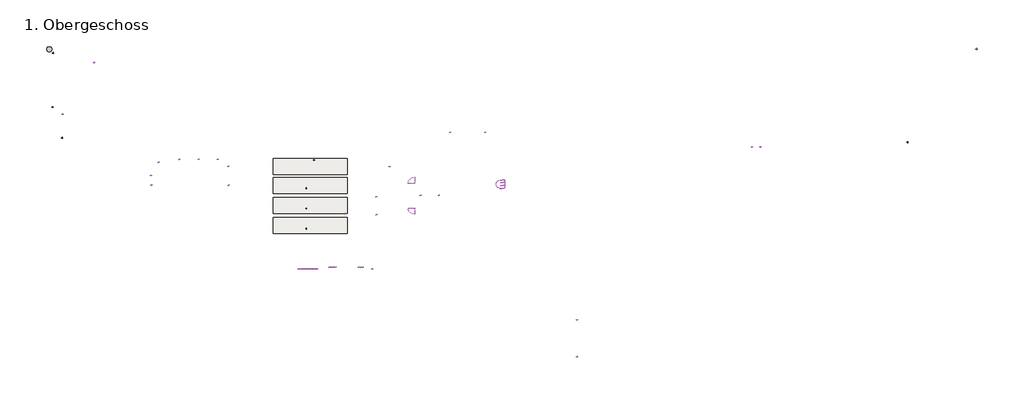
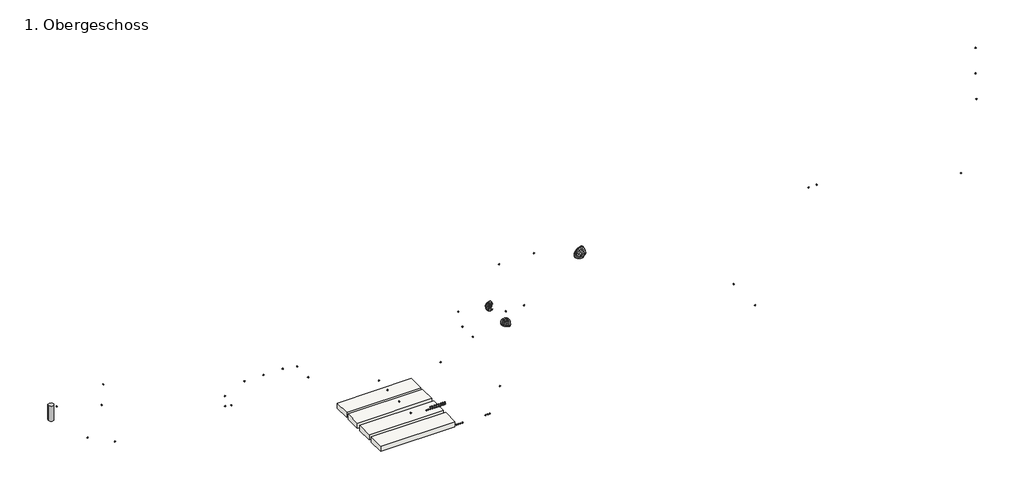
# One storey, incomplete: 63 proxies, 4 slabs.
"""IFC4 building model written with IfcOpenShell, lengths in millimetres."""

from ifc_helpers import new_model, si_unit, origin, place, context, project, spatial, triangles, transform, mapped, element, save
from components import generic_models_468b5ed0, generic_models_df03ad17, generic_models_46b4a44e, generic_models_0e3afcba, geschossdecke_112_geschossdecke_112_57db8b89, geschossdecke_135_geschossdecke_135_40bcd5ce, geschossdecke_158_geschossdecke_158_5216adb9, geschossdecke_geschossdecke_8e1ff118

model = new_model("IFC4")

# Units and contexts
model_context = context("Model", 3, world=origin())
ifc_project = project(units=[si_unit("LENGTHUNIT", "METRE", prefix="MILLI")], contexts=[model_context])

# Site, building, storey
site = spatial("IfcSite", under=ifc_project)
building = spatial("IfcBuilding", under=site)
storey = spatial("IfcBuildingStorey", under=building, Name="1. Obergeschoss", Elevation=2750.0)

# Proxies
placement = place(None, origin())
element("IfcBuildingElementProxy", 1, Name="Gebäudeautomation", ObjectType="Gebäudeautomation", at=placement, inside=storey, context=model_context, shape_type="Tessellation", body=[
    triangles([(7690.516626, 7316.5720093, 5342.8982941), (7715.5168442, 7316.5720093, 5317.8980759), (7690.516626, 7341.5722275, 5317.8980759), (7690.516626, 7291.5723724, 5317.8980759), (7665.5164078, 7316.5720093, 5317.8980759), (7690.516626, 7316.5720093, 5292.898439)], [[6, 5, 3], [6, 4, 5], [6, 2, 4], [6, 3, 2], [1, 3, 5], [1, 5, 4], [1, 4, 2], [1, 2, 3]]),
])
element("IfcBuildingElementProxy", 2, Name="Gebäudeautomation", ObjectType="Gebäudeautomation", at=placement, inside=storey, context=model_context, shape_type="Tessellation", body=[
    triangles([(7690.773587, 8005.6997131, 5341.9280045), (7715.7738052, 8005.6997131, 5316.9283676), (7690.773587, 8030.6999313, 5316.9283676), (7690.773587, 7980.7000763, 5316.9283676), (7665.7733688, 8005.6997131, 5316.9283676), (7690.773587, 8005.6997131, 5291.9281494)], [[6, 5, 3], [6, 4, 5], [6, 2, 4], [6, 3, 2], [1, 3, 5], [1, 5, 4], [1, 4, 2], [1, 2, 3]]),
])
element("IfcBuildingElementProxy", 3, Name="Gebäudeautomation", ObjectType="Gebäudeautomation", at=placement, inside=storey, context=model_context, shape_type="Tessellation", body=[
    triangles([(4857.0968422, 7671.4672073, 4998.7204651), (4882.0967697, 7671.4672073, 4973.7208282), (4857.0968422, 7696.4674255, 4973.7208282), (4857.0968422, 7646.4669891, 4973.7208282), (4832.0969147, 7671.4672073, 4973.7208282), (4857.0968422, 7671.4672073, 4948.72061)], [[6, 5, 3], [6, 4, 5], [6, 2, 4], [6, 3, 2], [1, 3, 5], [1, 5, 4], [1, 4, 2], [1, 2, 3]]),
])
element("IfcBuildingElementProxy", 4, Name="Gebäudeautomation", ObjectType="Gebäudeautomation", at=placement, inside=storey, context=model_context, shape_type="Tessellation", body=[
    triangles([(4877.9446976, 7320.2595749, 5238.6907013), (4902.9443344, 7320.2595749, 5213.6910645), (4877.9446976, 7345.2597931, 5213.6910645), (4877.9446976, 7295.2593567, 5213.6910645), (4852.9444794, 7320.2595749, 5213.6910645), (4877.9446976, 7320.2595749, 5188.6908463)], [[6, 5, 3], [6, 4, 5], [6, 2, 4], [6, 3, 2], [1, 3, 5], [1, 5, 4], [1, 4, 2], [1, 2, 3]]),
])
element("IfcBuildingElementProxy", 5, Name="Gebäudeautomation", ObjectType="Gebäudeautomation", at=placement, inside=storey, context=model_context, shape_type="Tessellation", body=[
    triangles([(10815.6677307, 8238.2320312, 3555.1667175), (10840.6673676, 8238.2320312, 3530.1664993), (10815.6677307, 8263.2322495, 3530.1664993), (10815.6677307, 8213.2323944, 3530.1664993), (10790.6680939, 8238.2320312, 3530.1664993), (10815.6677307, 8238.2320312, 3505.1665718)], [[6, 5, 3], [6, 4, 5], [6, 2, 4], [6, 3, 2], [1, 3, 5], [1, 5, 4], [1, 4, 2], [1, 2, 3]]),
])
element("IfcBuildingElementProxy", 6, Name="Gebäudeautomation", ObjectType="Gebäudeautomation", at=placement, inside=storey, context=model_context, shape_type="Tessellation", body=[
    triangles([(10532.4082764, 7200.8552353, 3924.8011322), (10557.4079132, 7200.8552353, 3899.8012047), (10532.4082764, 7225.8554535, 3899.8012047), (10532.4082764, 7175.8550171, 3899.8012047), (10507.4086395, 7200.8552353, 3899.8012047), (10532.4082764, 7200.8552353, 3874.8012772)], [[6, 5, 3], [6, 4, 5], [6, 2, 4], [6, 3, 2], [1, 3, 5], [1, 5, 4], [1, 4, 2], [1, 2, 3]]),
])
element("IfcBuildingElementProxy", 7, Name="Gebäudeautomation", ObjectType="Gebäudeautomation", at=placement, inside=storey, context=model_context, shape_type="Tessellation", body=[
    triangles([(10533.8837677, 6464.1019501, 3925.6798576), (10558.8834045, 6464.1019501, 3900.6799301), (10533.8837677, 6489.1021683, 3900.6799301), (10533.8837677, 6439.1017319, 3900.6799301), (10508.8841309, 6464.1019501, 3900.6799301), (10533.8837677, 6464.1019501, 3875.6800026)], [[6, 5, 3], [6, 4, 5], [6, 2, 4], [6, 3, 2], [1, 3, 5], [1, 5, 4], [1, 4, 2], [1, 2, 3]]),
])
element("IfcBuildingElementProxy", 8, Name="Gebäudeautomation", ObjectType="Gebäudeautomation", at=placement, inside=storey, context=model_context, shape_type="Tessellation", body=[
    triangles([(10532.845459, 5727.3486649, 3927.1256996), (10557.8450958, 5727.3486649, 3902.1257721), (10532.845459, 5752.3488831, 3902.1257721), (10532.845459, 5702.3484467, 3902.1257721), (10507.8458221, 5727.3486649, 3902.1257721), (10532.845459, 5727.3486649, 3877.1258446)], [[6, 5, 3], [6, 4, 5], [6, 2, 4], [6, 3, 2], [1, 3, 5], [1, 5, 4], [1, 4, 2], [1, 2, 3]]),
])
element("IfcBuildingElementProxy", 9, Name="Gebäudeautomation", ObjectType="Gebäudeautomation", at=placement, inside=storey, context=model_context, shape_type="Tessellation", body=[
    triangles([(13578.406073, 7997.9937881, 5407.9623459), (13603.4057098, 7997.9937881, 5382.9621277), (13578.406073, 8022.993425, 5382.9621277), (13578.406073, 7972.9935699, 5382.9621277), (13553.4052734, 7997.9937881, 5382.9621277), (13578.406073, 7997.9937881, 5357.9619095)], [[6, 5, 3], [6, 4, 5], [6, 2, 4], [6, 3, 2], [1, 3, 5], [1, 5, 4], [1, 4, 2], [1, 2, 3]]),
])
element("IfcBuildingElementProxy", 10, Name="Gebäudeautomation", ObjectType="Gebäudeautomation", at=placement, inside=storey, context=model_context, shape_type="Tessellation", body=[
    triangles([(11943.1814667, 6279.3196243, 5066.3884277), (11968.1811035, 6279.3196243, 5041.3887909), (11943.1814667, 6304.3198425, 5041.3887909), (11943.1814667, 6254.3199875, 5041.3887909), (11918.1818298, 6279.3196243, 5041.3887909), (11943.1814667, 6279.3196243, 5016.3885727)], [[6, 5, 3], [6, 4, 5], [6, 2, 4], [6, 3, 2], [1, 3, 5], [1, 5, 4], [1, 4, 2], [1, 2, 3]]),
])
element("IfcBuildingElementProxy", 11, Name="Gebäudeautomation", ObjectType="Gebäudeautomation", at=placement, inside=storey, context=model_context, shape_type="Tessellation", body=[
    triangles([(15381.8227386, 6945.7998734, 5660.4696075), (15406.8223755, 6945.7998734, 5635.4699707), (15381.8227386, 6970.8000916, 5635.4699707), (15381.8227386, 6920.7996552, 5635.4699707), (15356.8219391, 6945.7998734, 5635.4699707), (15381.8227386, 6945.7998734, 5610.4697525)], [[6, 5, 3], [6, 4, 5], [6, 2, 4], [6, 3, 2], [1, 3, 5], [1, 5, 4], [1, 4, 2], [1, 2, 3]]),
])
element("IfcBuildingElementProxy", 12, Name="Gebäudeautomation", ObjectType="Gebäudeautomation", at=placement, inside=storey, context=model_context, shape_type="Tessellation", body=[
    triangles([(14712.2961639, 6945.7998734, 5663.5723251), (14737.2958008, 6945.7998734, 5638.5726883), (14712.2961639, 6970.8000916, 5638.5726883), (14712.2961639, 6920.7996552, 5638.5726883), (14687.2953644, 6945.7998734, 5638.5726883), (14712.2961639, 6945.7998734, 5613.5724701)], [[6, 5, 3], [6, 4, 5], [6, 2, 4], [6, 3, 2], [1, 3, 5], [1, 5, 4], [1, 4, 2], [1, 2, 3]]),
])
element("IfcBuildingElementProxy", 13, Name="Gebäudeautomation", ObjectType="Gebäudeautomation", at=placement, inside=storey, context=model_context, shape_type="Tessellation", body=[
    triangles([(13092.1473816, 6893.6989838, 5662.3735611), (13117.1470184, 6893.6989838, 5637.3739243), (13092.1473816, 6918.699202, 5637.3739243), (13092.1473816, 6868.6987656, 5637.3739243), (13067.146582, 6893.6989838, 5637.3739243), (13092.1473816, 6893.6989838, 5612.3737061)], [[6, 5, 3], [6, 4, 5], [6, 2, 4], [6, 3, 2], [1, 3, 5], [1, 5, 4], [1, 4, 2], [1, 2, 3]]),
])
element("IfcBuildingElementProxy", 14, Name="Gebäudeautomation", ObjectType="Gebäudeautomation", at=placement, inside=storey, context=model_context, shape_type="Tessellation", body=[
    triangles([(13091.614856, 6237.6983276, 5672.5055008), (13116.6156555, 6237.6983276, 5647.505864), (13091.614856, 6262.6985458, 5647.505864), (13091.614856, 6212.6981094, 5647.505864), (13066.6152191, 6237.6983276, 5647.505864), (13091.614856, 6237.6983276, 5622.5056458)], [[6, 5, 3], [6, 4, 5], [6, 2, 4], [6, 3, 2], [1, 3, 5], [1, 5, 4], [1, 4, 2], [1, 2, 3]]),
])
element("IfcBuildingElementProxy", 15, Name="Gebäudeautomation", ObjectType="Gebäudeautomation", at=placement, inside=storey, context=model_context, shape_type="Tessellation", body=[
    triangles([(15794.0743195, 9248.8639481, 5711.4781219), (15819.0739563, 9248.8639481, 5686.4779037), (15794.0743195, 9273.8641663, 5686.4779037), (15794.0743195, 9223.8643112, 5686.4779037), (15769.0746826, 9248.8639481, 5686.4779037), (15794.0743195, 9248.8639481, 5661.4782669)], [[6, 5, 3], [6, 4, 5], [6, 2, 4], [6, 3, 2], [1, 3, 5], [1, 5, 4], [1, 4, 2], [1, 2, 3]]),
])
element("IfcBuildingElementProxy", 16, Name="Gebäudeautomation", ObjectType="Gebäudeautomation", at=placement, inside=storey, context=model_context, shape_type="Tessellation", body=[
    triangles([(17072.3311798, 9248.8639481, 5688.6969543), (17097.3308167, 9248.8639481, 5663.6967361), (17072.3311798, 9273.8641663, 5663.6967361), (17072.3311798, 9223.8643112, 5663.6967361), (17047.331543, 9248.8639481, 5663.6967361), (17072.3311798, 9248.8639481, 5638.6970993)], [[6, 5, 3], [6, 4, 5], [6, 2, 4], [6, 3, 2], [1, 3, 5], [1, 5, 4], [1, 4, 2], [1, 2, 3]]),
])
element("IfcBuildingElementProxy", 17, Name="Gebäudeautomation", ObjectType="Gebäudeautomation", at=placement, inside=storey, context=model_context, shape_type="Tessellation", body=[
    triangles([(32498.9767639, 8888.2807251, 3613.1875946), (32523.9775635, 8888.2807251, 3588.1873764), (32498.9767639, 8913.2803619, 3588.1873764), (32498.9767639, 8863.2810883, 3588.1873764), (32473.9782898, 8888.2807251, 3588.1873764), (32498.9767639, 8888.2807251, 3563.1874489)], [[6, 5, 3], [6, 4, 5], [6, 2, 4], [6, 3, 2], [1, 3, 5], [1, 5, 4], [1, 4, 2], [1, 2, 3]]),
])
element("IfcBuildingElementProxy", 18, Name="Gebäudeautomation", ObjectType="Gebäudeautomation", at=placement, inside=storey, context=model_context, shape_type="Tessellation", body=[
    triangles([(35000.5891846, 12296.6087311, 5526.1266449), (35025.5876587, 12296.6087311, 5501.1264267), (35000.5891846, 12321.6083679, 5501.1264267), (35000.5891846, 12271.6090942, 5501.1264267), (34975.588385, 12296.6087311, 5501.1264267), (35000.5891846, 12296.6087311, 5476.1267899)], [[6, 5, 3], [6, 4, 5], [6, 2, 4], [6, 3, 2], [1, 3, 5], [1, 5, 4], [1, 4, 2], [1, 2, 3]]),
])
element("IfcBuildingElementProxy", 19, Name="Gebäudeautomation", ObjectType="Gebäudeautomation", at=placement, inside=storey, context=model_context, shape_type="Tessellation", body=[
    triangles([(34997.4754211, 12296.6087311, 4537.3904846), (35022.4738953, 12296.6087311, 4512.3905571), (34997.4754211, 12321.6083679, 4512.3905571), (34997.4754211, 12271.6090942, 4512.3905571), (34972.4746216, 12296.6087311, 4512.3905571), (34997.4754211, 12296.6087311, 4487.3906296)], [[6, 5, 3], [6, 4, 5], [6, 2, 4], [6, 3, 2], [1, 3, 5], [1, 5, 4], [1, 4, 2], [1, 2, 3]]),
])
element("IfcBuildingElementProxy", 20, Name="Gebäudeautomation", ObjectType="Gebäudeautomation", at=placement, inside=storey, context=model_context, shape_type="Tessellation", body=[
    triangles([(35028.531665, 12296.6087311, 3527.8837898), (35053.5324646, 12296.6087311, 3502.8838623), (35028.531665, 12321.6083679, 3502.8838623), (35028.531665, 12271.6090942, 3502.8838623), (35003.5331909, 12296.6087311, 3502.8838623), (35028.531665, 12296.6087311, 3477.8839348)], [[6, 5, 3], [6, 4, 5], [6, 2, 4], [6, 3, 2], [1, 3, 5], [1, 5, 4], [1, 4, 2], [1, 2, 3]]),
])
element("IfcBuildingElementProxy", 21, Name="Gebäudeautomation", ObjectType="Gebäudeautomation", at=placement, inside=storey, context=model_context, shape_type="Tessellation", body=[
    triangles([(20427.9112427, 2388.8046261, 7479.8998306), (20452.9120422, 2388.8046261, 7454.8996124), (20427.9112427, 2413.8046989, 7454.8996124), (20427.9112427, 2363.8046986, 7454.8996124), (20402.9127686, 2388.8046261, 7454.8996124), (20427.9112427, 2388.8046261, 7429.8999756)], [[6, 5, 3], [6, 4, 5], [6, 2, 4], [6, 3, 2], [1, 3, 5], [1, 5, 4], [1, 4, 2], [1, 2, 3]]),
])
element("IfcBuildingElementProxy", 22, Name="Gebäudeautomation", ObjectType="Gebäudeautomation", at=placement, inside=storey, context=model_context, shape_type="Tessellation", body=[
    triangles([(20428.3367981, 1041.7341608, 7480.186441), (20453.3375977, 1041.7341608, 7455.1862228), (20428.3367981, 1066.734161, 7455.1862228), (20428.3367981, 1016.7341606, 7455.1862228), (20403.338324, 1041.7341608, 7455.1862228), (20428.3367981, 1041.7341608, 7430.186586)], [[6, 5, 3], [6, 4, 5], [6, 2, 4], [6, 3, 2], [1, 3, 5], [1, 5, 4], [1, 4, 2], [1, 2, 3]]),
])
element("IfcBuildingElementProxy", 23, Name="Gebäudeautomation", ObjectType="Gebäudeautomation", at=placement, inside=storey, context=model_context, shape_type="Tessellation", body=[
    triangles([(12452.5620026, 4314.5712364, 4032.8087837), (12477.5628021, 4314.5712364, 4007.8088562), (12452.5620026, 4339.5711639, 4007.8088562), (12452.5620026, 4289.5710182, 4007.8088562), (12427.5623657, 4314.5712364, 4007.8088562), (12452.5620026, 4314.5712364, 3982.808638)], [[6, 5, 3], [6, 4, 5], [6, 2, 4], [6, 3, 2], [1, 3, 5], [1, 5, 4], [1, 4, 2], [1, 2, 3]]),
])
element("IfcBuildingElementProxy", 24, Name="Gebäudeautomation", ObjectType="Gebäudeautomation", at=placement, inside=storey, context=model_context, shape_type="Tessellation", body=[
    triangles([(12527.5620758, 4314.5712364, 4032.8087837), (12552.5617126, 4314.5712364, 4007.8088562), (12527.5620758, 4339.5711639, 4007.8088562), (12527.5620758, 4289.5710182, 4007.8088562), (12502.562439, 4314.5712364, 4007.8088562), (12527.5620758, 4314.5712364, 3982.808638)], [[6, 5, 3], [6, 4, 5], [6, 2, 4], [6, 3, 2], [1, 3, 5], [1, 5, 4], [1, 4, 2], [1, 2, 3]]),
])
element("IfcBuildingElementProxy", 25, Name="Gebäudeautomation", ObjectType="Gebäudeautomation", at=placement, inside=storey, context=model_context, shape_type="Tessellation", body=[
    triangles([(12602.562149, 4314.5712364, 4032.8087837), (12627.5617859, 4314.5712364, 4007.8088562), (12602.562149, 4339.5711639, 4007.8088562), (12602.562149, 4289.5710182, 4007.8088562), (12577.5625122, 4314.5712364, 4007.8088562), (12602.562149, 4314.5712364, 3982.808638)], [[6, 5, 3], [6, 4, 5], [6, 2, 4], [6, 3, 2], [1, 3, 5], [1, 5, 4], [1, 4, 2], [1, 2, 3]]),
])
element("IfcBuildingElementProxy", 26, Name="Gebäudeautomation", ObjectType="Gebäudeautomation", at=placement, inside=storey, context=model_context, shape_type="Tessellation", body=[
    triangles([(11382.3261658, 4314.5712364, 4030.1106926), (11407.3258026, 4314.5712364, 4005.1107651), (11382.3261658, 4339.5711639, 4005.1107651), (11382.3261658, 4289.5710182, 4005.1107651), (11357.3265289, 4314.5712364, 4005.1107651), (11382.3261658, 4314.5712364, 3980.1105469)], [[6, 5, 3], [6, 4, 5], [6, 2, 4], [6, 3, 2], [1, 3, 5], [1, 5, 4], [1, 4, 2], [1, 2, 3]]),
])
element("IfcBuildingElementProxy", 27, Name="Gebäudeautomation", ObjectType="Gebäudeautomation", at=placement, inside=storey, context=model_context, shape_type="Tessellation", body=[
    triangles([(11457.326239, 4314.5712364, 4030.1106926), (11482.3258759, 4314.5712364, 4005.1107651), (11457.326239, 4339.5711639, 4005.1107651), (11457.326239, 4289.5710182, 4005.1107651), (11432.3266022, 4314.5712364, 4005.1107651), (11457.326239, 4314.5712364, 3980.1105469)], [[6, 5, 3], [6, 4, 5], [6, 2, 4], [6, 3, 2], [1, 3, 5], [1, 5, 4], [1, 4, 2], [1, 2, 3]]),
])
element("IfcBuildingElementProxy", 28, Name="Gebäudeautomation", ObjectType="Gebäudeautomation", at=placement, inside=storey, context=model_context, shape_type="Tessellation", body=[
    triangles([(11532.3263123, 4314.5712364, 4030.1106926), (11557.3259491, 4314.5712364, 4005.1107651), (11532.3263123, 4339.5711639, 4005.1107651), (11532.3263123, 4289.5710182, 4005.1107651), (11507.3266754, 4314.5712364, 4005.1107651), (11532.3263123, 4314.5712364, 3980.1105469)], [[6, 5, 3], [6, 4, 5], [6, 2, 4], [6, 3, 2], [1, 3, 5], [1, 5, 4], [1, 4, 2], [1, 2, 3]]),
])
element("IfcBuildingElementProxy", 29, Name="Gebäudeautomation", ObjectType="Gebäudeautomation", at=placement, inside=storey, context=model_context, shape_type="Tessellation", body=[
    triangles([(11607.3263855, 4314.5712364, 4030.1106926), (11632.3260223, 4314.5712364, 4005.1107651), (11607.3263855, 4339.5711639, 4005.1107651), (11607.3263855, 4289.5710182, 4005.1107651), (11582.3267487, 4314.5712364, 4005.1107651), (11607.3263855, 4314.5712364, 3980.1105469)], [[6, 5, 3], [6, 4, 5], [6, 2, 4], [6, 3, 2], [1, 3, 5], [1, 5, 4], [1, 4, 2], [1, 2, 3]]),
])
element("IfcBuildingElementProxy", 30, Name="Gebäudeautomation", ObjectType="Gebäudeautomation", at=placement, inside=storey, context=model_context, shape_type="Tessellation", body=[
    triangles([(26814.0935303, 8712.6117966, 5151.5041626), (26839.0943298, 8712.6117966, 5126.5039444), (26814.0935303, 8737.6114334, 5126.5039444), (26814.0935303, 8687.6115784, 5126.5039444), (26789.0927307, 8712.6117966, 5126.5039444), (26814.0935303, 8712.6117966, 5101.5043076)], [[6, 5, 3], [6, 4, 5], [6, 2, 4], [6, 3, 2], [1, 3, 5], [1, 5, 4], [1, 4, 2], [1, 2, 3]]),
])
element("IfcBuildingElementProxy", 31, Name="Gebäudeautomation", ObjectType="Gebäudeautomation", at=placement, inside=storey, context=model_context, shape_type="Tessellation", body=[
    triangles([(27118.0889282, 8714.3686661, 5153.0058151), (27143.0874023, 8714.3686661, 5128.0061783), (27118.0889282, 8739.3683029, 5128.0061783), (27118.0889282, 8689.3684479, 5128.0061783), (27093.0881287, 8714.3686661, 5128.0061783), (27118.0889282, 8714.3686661, 5103.0059601)], [[6, 5, 3], [6, 4, 5], [6, 2, 4], [6, 3, 2], [1, 3, 5], [1, 5, 4], [1, 4, 2], [1, 2, 3]]),
])
element("IfcBuildingElementProxy", 32, Name="Gebäudeautomation", ObjectType="Gebäudeautomation", at=placement, inside=storey, context=model_context, shape_type="Tessellation", body=[
    triangles([(1265.3250916, 10172.9825409, 3520.7510857), (1290.3250191, 10172.9825409, 3495.7511581), (1265.3250916, 10197.9821777, 3495.7511581), (1265.3250916, 10147.9817413, 3495.7511581), (1240.325164, 10172.9825409, 3495.7511581), (1265.3250916, 10172.9825409, 3470.7512306)], [[6, 5, 3], [6, 4, 5], [6, 2, 4], [6, 3, 2], [1, 3, 5], [1, 5, 4], [1, 4, 2], [1, 2, 3]]),
])
element("IfcBuildingElementProxy", 33, Name="Gebäudeautomation", ObjectType="Gebäudeautomation", at=placement, inside=storey, context=model_context, shape_type="Tessellation", body=[
    triangles([(1614.6898132, 9045.4147385, 3926.8699013), (1639.6897408, 9045.4147385, 3901.8696831), (1614.6898132, 9070.4143753, 3901.8696831), (1614.6898132, 9020.4139389, 3901.8696831), (1589.689595, 9045.4147385, 3901.8696831), (1614.6898132, 9045.4147385, 3876.8697556)], [[6, 5, 3], [6, 4, 5], [6, 2, 4], [6, 3, 2], [1, 3, 5], [1, 5, 4], [1, 4, 2], [1, 2, 3]]),
])
element("IfcBuildingElementProxy", 34, Name="Gebäudeautomation", ObjectType="Gebäudeautomation", at=placement, inside=storey, context=model_context, shape_type="Tessellation", body=[
    triangles([(1634.3928257, 9914.2553101, 4814.3352081), (1659.3930439, 9914.2553101, 4789.3352806), (1634.3928257, 9939.2549469, 4789.3352806), (1634.3928257, 9889.2545105, 4789.3352806), (1609.3928982, 9914.2553101, 4789.3352806), (1634.3928257, 9914.2553101, 4764.3353531)], [[6, 5, 3], [6, 4, 5], [6, 2, 4], [6, 3, 2], [1, 3, 5], [1, 5, 4], [1, 4, 2], [1, 2, 3]]),
])
element("IfcBuildingElementProxy", 35, Name="Gebäudeautomation", ObjectType="Gebäudeautomation", at=placement, inside=storey, context=model_context, shape_type="Tessellation", body=[
    triangles([(1282.1778419, 12153.4604919, 3523.6017838), (1307.1777695, 12153.4604919, 3498.6018562), (1282.1778419, 12178.4601288, 3498.6018562), (1282.1778419, 12128.4596924, 3498.6018562), (1257.1779144, 12153.4604919, 3498.6018562), (1282.1778419, 12153.4604919, 3473.6019287)], [[6, 5, 3], [6, 4, 5], [6, 2, 4], [6, 3, 2], [1, 3, 5], [1, 5, 4], [1, 4, 2], [1, 2, 3]]),
])
element("IfcBuildingElementProxy", 36, Name="Gebäudeautomation", ObjectType="Gebäudeautomation", at=placement, inside=storey, context=model_context, shape_type="Tessellation", body=[
    triangles([(2778.7239944, 11801.3203583, 4066.6907272), (2803.723922, 11801.3203583, 4041.6907997), (2778.7239944, 11826.3199951, 4041.6907997), (2778.7239944, 11776.3195587, 4041.6907997), (2753.7240669, 11801.3203583, 4041.6907997), (2778.7239944, 11801.3203583, 4016.6908722)], [[6, 5, 3], [6, 4, 5], [6, 2, 4], [6, 3, 2], [1, 3, 5], [1, 5, 4], [1, 4, 2], [1, 2, 3]]),
])
element("IfcBuildingElementProxy", 37, Name="Gebäudeautomation", ObjectType="Gebäudeautomation", at=placement, inside=storey, context=model_context, shape_type="Tessellation", body=[
    triangles([(7301.6996613, 8258.3988235, 5236.5652496), (7326.6992981, 8258.3988235, 5211.5650314), (7301.6996613, 8283.3984604, 5211.5650314), (7301.6996613, 8233.3986053, 5211.5650314), (7276.6994431, 8258.3988235, 5211.5650314), (7301.6996613, 8258.3988235, 5186.5653946)], [[6, 5, 3], [6, 4, 5], [6, 2, 4], [6, 3, 2], [1, 3, 5], [1, 5, 4], [1, 4, 2], [1, 2, 3]]),
])
element("IfcBuildingElementProxy", 38, Name="Gebäudeautomation", ObjectType="Gebäudeautomation", at=placement, inside=storey, context=model_context, shape_type="Tessellation", body=[
    triangles([(5130.2327866, 8154.7778229, 5001.3505371), (5155.2324234, 8154.7778229, 4976.3503189), (5130.2327866, 8179.7774597, 4976.3503189), (5130.2327866, 8129.7776047, 4976.3503189), (5105.2325684, 8154.7778229, 4976.3503189), (5130.2327866, 8154.7778229, 4951.3506821)], [[6, 5, 3], [6, 4, 5], [6, 2, 4], [6, 3, 2], [1, 3, 5], [1, 5, 4], [1, 4, 2], [1, 2, 3]]),
])
element("IfcBuildingElementProxy", 39, Name="Gebäudeautomation", ObjectType="Gebäudeautomation", at=placement, inside=storey, context=model_context, shape_type="Tessellation", body=[
    triangles([(6602.0330658, 8258.3988235, 5243.002066), (6627.0327026, 8258.3988235, 5218.0018478), (6602.0330658, 8283.3984604, 5218.0018478), (6602.0330658, 8233.3986053, 5218.0018478), (6577.0328476, 8258.3988235, 5218.0018478), (6602.0330658, 8258.3988235, 5193.002211)], [[6, 5, 3], [6, 4, 5], [6, 2, 4], [6, 3, 2], [1, 3, 5], [1, 5, 4], [1, 4, 2], [1, 2, 3]]),
])
element("IfcBuildingElementProxy", 40, Name="Gebäudeautomation", ObjectType="Gebäudeautomation", at=placement, inside=storey, context=model_context, shape_type="Tessellation", body=[
    triangles([(5898.1713776, 8258.3988235, 5243.002066), (5923.1715958, 8258.3988235, 5218.0018478), (5898.1713776, 8283.3984604, 5218.0018478), (5898.1713776, 8233.3986053, 5218.0018478), (5873.1717407, 8258.3988235, 5218.0018478), (5898.1713776, 8258.3988235, 5193.002211)], [[6, 5, 3], [6, 4, 5], [6, 2, 4], [6, 3, 2], [1, 3, 5], [1, 5, 4], [1, 4, 2], [1, 2, 3]]),
])
element("IfcBuildingElementProxy", 41, Name="Gebäudeautomation", ObjectType="Gebäudeautomation", at=placement, inside=storey, context=model_context, shape_type="Tessellation", body=[
    triangles([(12942.6960388, 4254.3813057, 5013.2341141), (12967.6956757, 4254.3813057, 4988.2338959), (12942.6960388, 4279.3812332, 4988.2338959), (12942.6960388, 4229.3813782, 4988.2338959), (12917.696402, 4254.3813057, 4988.2338959), (12942.6960388, 4254.3813057, 4963.234259)], [[6, 5, 3], [6, 4, 5], [6, 2, 4], [6, 3, 2], [1, 3, 5], [1, 5, 4], [1, 4, 2], [1, 2, 3]]),
])
element("IfcBuildingElementProxy", 42, Name="Gebäudeautomation", ObjectType="Gebäudeautomation", at=placement, inside=storey, context=model_context, shape_type="Tessellation", body=[
    triangles([(10396.1898468, 4254.3813057, 5097.546991), (10421.1894836, 4254.3813057, 5072.5467728), (10396.1898468, 4279.3812332, 5072.5467728), (10396.1898468, 4229.3813782, 5072.5467728), (10371.1890472, 4254.3813057, 5072.5467728), (10396.1898468, 4254.3813057, 5047.5471359)], [[6, 5, 3], [6, 4, 5], [6, 2, 4], [6, 3, 2], [1, 3, 5], [1, 5, 4], [1, 4, 2], [1, 2, 3]]),
])
element("IfcBuildingElementProxy", 43, Name="Gebäudeautomation", ObjectType="Gebäudeautomation", at=placement, inside=storey, context=model_context, shape_type="Tessellation", body=[
    triangles([(10471.18992, 4254.3813057, 5097.546991), (10496.1895569, 4254.3813057, 5072.5467728), (10471.18992, 4279.3812332, 5072.5467728), (10471.18992, 4229.3813782, 5072.5467728), (10446.1891205, 4254.3813057, 5072.5467728), (10471.18992, 4254.3813057, 5047.5471359)], [[6, 5, 3], [6, 4, 5], [6, 2, 4], [6, 3, 2], [1, 3, 5], [1, 5, 4], [1, 4, 2], [1, 2, 3]]),
])
element("IfcBuildingElementProxy", 44, Name="Gebäudeautomation", ObjectType="Gebäudeautomation", at=placement, inside=storey, context=model_context, shape_type="Tessellation", body=[
    triangles([(10546.1899933, 4254.3813057, 5097.546991), (10571.1896301, 4254.3813057, 5072.5467728), (10546.1899933, 4279.3812332, 5072.5467728), (10546.1899933, 4229.3813782, 5072.5467728), (10521.1891937, 4254.3813057, 5072.5467728), (10546.1899933, 4254.3813057, 5047.5471359)], [[6, 5, 3], [6, 4, 5], [6, 2, 4], [6, 3, 2], [1, 3, 5], [1, 5, 4], [1, 4, 2], [1, 2, 3]]),
])
element("IfcBuildingElementProxy", 45, Name="Gebäudeautomation", ObjectType="Gebäudeautomation", at=placement, inside=storey, context=model_context, shape_type="Tessellation", body=[
    triangles([(10621.1900665, 4254.3813057, 5097.546991), (10646.1897034, 4254.3813057, 5072.5467728), (10621.1900665, 4279.3812332, 5072.5467728), (10621.1900665, 4229.3813782, 5072.5467728), (10596.189267, 4254.3813057, 5072.5467728), (10621.1900665, 4254.3813057, 5047.5471359)], [[6, 5, 3], [6, 4, 5], [6, 2, 4], [6, 3, 2], [1, 3, 5], [1, 5, 4], [1, 4, 2], [1, 2, 3]]),
])
element("IfcBuildingElementProxy", 46, Name="Gebäudeautomation", ObjectType="Gebäudeautomation", at=placement, inside=storey, context=model_context, shape_type="Tessellation", body=[
    triangles([(10696.1901398, 4254.3813057, 5097.546991), (10721.1897766, 4254.3813057, 5072.5467728), (10696.1901398, 4279.3812332, 5072.5467728), (10696.1901398, 4229.3813782, 5072.5467728), (10671.1893402, 4254.3813057, 5072.5467728), (10696.1901398, 4254.3813057, 5047.5471359)], [[6, 5, 3], [6, 4, 5], [6, 2, 4], [6, 3, 2], [1, 3, 5], [1, 5, 4], [1, 4, 2], [1, 2, 3]]),
])
element("IfcBuildingElementProxy", 47, Name="Gebäudeautomation", ObjectType="Gebäudeautomation", at=placement, inside=storey, context=model_context, shape_type="Tessellation", body=[
    triangles([(10771.1890503, 4254.3813057, 5097.546991), (10796.1898499, 4254.3813057, 5072.5467728), (10771.1890503, 4279.3812332, 5072.5467728), (10771.1890503, 4229.3813782, 5072.5467728), (10746.1894135, 4254.3813057, 5072.5467728), (10771.1890503, 4254.3813057, 5047.5471359)], [[6, 5, 3], [6, 4, 5], [6, 2, 4], [6, 3, 2], [1, 3, 5], [1, 5, 4], [1, 4, 2], [1, 2, 3]]),
])
element("IfcBuildingElementProxy", 48, Name="Gebäudeautomation", ObjectType="Gebäudeautomation", at=placement, inside=storey, context=model_context, shape_type="Tessellation", body=[
    triangles([(10846.1891235, 4254.3813057, 5097.546991), (10871.1899231, 4254.3813057, 5072.5467728), (10846.1891235, 4279.3812332, 5072.5467728), (10846.1891235, 4229.3813782, 5072.5467728), (10821.1894867, 4254.3813057, 5072.5467728), (10846.1891235, 4254.3813057, 5047.5471359)], [[6, 5, 3], [6, 4, 5], [6, 2, 4], [6, 3, 2], [1, 3, 5], [1, 5, 4], [1, 4, 2], [1, 2, 3]]),
])
element("IfcBuildingElementProxy", 49, Name="Gebäudeautomation", ObjectType="Gebäudeautomation", at=placement, inside=storey, context=model_context, shape_type="Tessellation", body=[
    triangles([(10921.1891968, 4254.3813057, 5097.546991), (10946.1899963, 4254.3813057, 5072.5467728), (10921.1891968, 4279.3812332, 5072.5467728), (10921.1891968, 4229.3813782, 5072.5467728), (10896.1895599, 4254.3813057, 5072.5467728), (10921.1891968, 4254.3813057, 5047.5471359)], [[6, 5, 3], [6, 4, 5], [6, 2, 4], [6, 3, 2], [1, 3, 5], [1, 5, 4], [1, 4, 2], [1, 2, 3]]),
])
element("IfcBuildingElementProxy", 50, Name="Gebäudeautomation", ObjectType="Gebäudeautomation", at=placement, inside=storey, context=model_context, shape_type="Tessellation", body=[
    triangles([(10251.9951599, 4254.3813057, 5022.6445862), (10276.9959595, 4254.3813057, 4997.644368), (10251.9951599, 4279.3812332, 4997.644368), (10251.9951599, 4229.3813782, 4997.644368), (10226.9955231, 4254.3813057, 4997.644368), (10251.9951599, 4254.3813057, 4972.6447311)], [[6, 5, 3], [6, 4, 5], [6, 2, 4], [6, 3, 2], [1, 3, 5], [1, 5, 4], [1, 4, 2], [1, 2, 3]]),
])
element("IfcBuildingElementProxy", 51, Name="Gebäudeautomation", ObjectType="Gebäudeautomation", at=placement, inside=storey, context=model_context, shape_type="Tessellation", body=[
    triangles([(10326.9952332, 4254.3813057, 5022.6445862), (10351.9960327, 4254.3813057, 4997.644368), (10326.9952332, 4279.3812332, 4997.644368), (10326.9952332, 4229.3813782, 4997.644368), (10301.9955963, 4254.3813057, 4997.644368), (10326.9952332, 4254.3813057, 4972.6447311)], [[6, 5, 3], [6, 4, 5], [6, 2, 4], [6, 3, 2], [1, 3, 5], [1, 5, 4], [1, 4, 2], [1, 2, 3]]),
])
element("IfcBuildingElementProxy", 52, Name="Gebäudeautomation", ObjectType="Gebäudeautomation", at=placement, inside=storey, context=model_context, shape_type="Tessellation", body=[
    triangles([(10401.9953064, 4254.3813057, 5022.6445862), (10426.9949432, 4254.3813057, 4997.644368), (10401.9953064, 4279.3812332, 4997.644368), (10401.9953064, 4229.3813782, 4997.644368), (10376.9956696, 4254.3813057, 4997.644368), (10401.9953064, 4254.3813057, 4972.6447311)], [[6, 5, 3], [6, 4, 5], [6, 2, 4], [6, 3, 2], [1, 3, 5], [1, 5, 4], [1, 4, 2], [1, 2, 3]]),
])
element("IfcBuildingElementProxy", 53, Name="Gebäudeautomation", ObjectType="Gebäudeautomation", at=placement, inside=storey, context=model_context, shape_type="Tessellation", body=[
    triangles([(10476.9953796, 4254.3813057, 5022.6445862), (10501.9950165, 4254.3813057, 4997.644368), (10476.9953796, 4279.3812332, 4997.644368), (10476.9953796, 4229.3813782, 4997.644368), (10451.9957428, 4254.3813057, 4997.644368), (10476.9953796, 4254.3813057, 4972.6447311)], [[6, 5, 3], [6, 4, 5], [6, 2, 4], [6, 3, 2], [1, 3, 5], [1, 5, 4], [1, 4, 2], [1, 2, 3]]),
])
element("IfcBuildingElementProxy", 54, Name="Gebäudeautomation", ObjectType="Gebäudeautomation", at=placement, inside=storey, context=model_context, shape_type="Tessellation", body=[
    triangles([(10551.9954529, 4254.3813057, 5022.6445862), (10576.9950897, 4254.3813057, 4997.644368), (10551.9954529, 4279.3812332, 4997.644368), (10551.9954529, 4229.3813782, 4997.644368), (10526.995816, 4254.3813057, 4997.644368), (10551.9954529, 4254.3813057, 4972.6447311)], [[6, 5, 3], [6, 4, 5], [6, 2, 4], [6, 3, 2], [1, 3, 5], [1, 5, 4], [1, 4, 2], [1, 2, 3]]),
])
element("IfcBuildingElementProxy", 55, Name="Gebäudeautomation", ObjectType="Gebäudeautomation", at=placement, inside=storey, context=model_context, shape_type="Tessellation", body=[
    triangles([(10626.9955261, 4254.3813057, 5022.6445862), (10651.995163, 4254.3813057, 4997.644368), (10626.9955261, 4279.3812332, 4997.644368), (10626.9955261, 4229.3813782, 4997.644368), (10601.9958893, 4254.3813057, 4997.644368), (10626.9955261, 4254.3813057, 4972.6447311)], [[6, 5, 3], [6, 4, 5], [6, 2, 4], [6, 3, 2], [1, 3, 5], [1, 5, 4], [1, 4, 2], [1, 2, 3]]),
])
element("IfcBuildingElementProxy", 56, Name="Gebäudeautomation", ObjectType="Gebäudeautomation", at=placement, inside=storey, context=model_context, shape_type="Tessellation", body=[
    triangles([(10701.9955994, 4254.3813057, 5022.6445862), (10726.9952362, 4254.3813057, 4997.644368), (10701.9955994, 4279.3812332, 4997.644368), (10701.9955994, 4229.3813782, 4997.644368), (10676.9959625, 4254.3813057, 4997.644368), (10701.9955994, 4254.3813057, 4972.6447311)], [[6, 5, 3], [6, 4, 5], [6, 2, 4], [6, 3, 2], [1, 3, 5], [1, 5, 4], [1, 4, 2], [1, 2, 3]]),
])
element("IfcBuildingElementProxy", 57, Name="Gebäudeautomation", ObjectType="Gebäudeautomation", at=placement, inside=storey, context=model_context, shape_type="Tessellation", body=[
    triangles([(10776.9956726, 4254.3813057, 5022.6445862), (10801.9953094, 4254.3813057, 4997.644368), (10776.9956726, 4279.3812332, 4997.644368), (10776.9956726, 4229.3813782, 4997.644368), (10751.9960358, 4254.3813057, 4997.644368), (10776.9956726, 4254.3813057, 4972.6447311)], [[6, 5, 3], [6, 4, 5], [6, 2, 4], [6, 3, 2], [1, 3, 5], [1, 5, 4], [1, 4, 2], [1, 2, 3]]),
])
element("IfcBuildingElementProxy", 58, Name="Gebäudeautomation", ObjectType="Gebäudeautomation", at=placement, inside=storey, context=model_context, shape_type="Tessellation", body=[
    triangles([(10851.9957458, 4254.3813057, 5022.6445862), (10876.9953827, 4254.3813057, 4997.644368), (10851.9957458, 4279.3812332, 4997.644368), (10851.9957458, 4229.3813782, 4997.644368), (10826.9949463, 4254.3813057, 4997.644368), (10851.9957458, 4254.3813057, 4972.6447311)], [[6, 5, 3], [6, 4, 5], [6, 2, 4], [6, 3, 2], [1, 3, 5], [1, 5, 4], [1, 4, 2], [1, 2, 3]]),
])
element("IfcBuildingElementProxy", 59, Name="Gebäudeautomation", ObjectType="Gebäudeautomation", at=placement, inside=storey, context=model_context, shape_type="Tessellation", body=[
    triangles([(10926.9958191, 4254.3813057, 5022.6445862), (10951.9954559, 4254.3813057, 4997.644368), (10926.9958191, 4279.3812332, 4997.644368), (10926.9958191, 4229.3813782, 4997.644368), (10901.9950195, 4254.3813057, 4997.644368), (10926.9958191, 4254.3813057, 4972.6447311)], [[6, 5, 3], [6, 4, 5], [6, 2, 4], [6, 3, 2], [1, 3, 5], [1, 5, 4], [1, 4, 2], [1, 2, 3]]),
])
generic_models_shape = generic_models_468b5ed0(model_context)
element("IfcBuildingElementProxy", 60, Name="Rohrbogen 7887 : Rohrbogen 7887", ObjectType="Rohrbogen 7887 : Rohrbogen 7887", at=placement, inside=storey, context=model_context, shape_type="MappedRepresentation", body=[
    mapped(generic_models_shape, transform((0.0, 0.0, 0.0), x_axis=(1.0, 0.0, 0.0), y_axis=(0.0, 1.0, 0.0), z_axis=(0.0, 0.0, 1.0))),
])
generic_models_2_shape = generic_models_df03ad17(model_context)
element("IfcBuildingElementProxy", 61, Name="Rohrbogen 257273 : Rohrbogen 257273", ObjectType="Rohrbogen 257273 : Rohrbogen 257273", at=placement, inside=storey, context=model_context, shape_type="MappedRepresentation", body=[
    mapped(generic_models_2_shape, transform((0.0, 0.0, 0.0), x_axis=(1.0, 0.0, 0.0), y_axis=(0.0, 1.0, 0.0), z_axis=(0.0, 0.0, 1.0))),
])
generic_models_3_shape = generic_models_46b4a44e(model_context)
element("IfcBuildingElementProxy", 62, Name="Rohrbogen 259180 : Rohrbogen 259180", ObjectType="Rohrbogen 259180 : Rohrbogen 259180", at=placement, inside=storey, context=model_context, shape_type="MappedRepresentation", body=[
    mapped(generic_models_3_shape, transform((0.0, 0.0, 0.0), x_axis=(1.0, 0.0, 0.0), y_axis=(0.0, 1.0, 0.0), z_axis=(0.0, 0.0, 1.0))),
])
generic_models_4_shape = generic_models_0e3afcba(model_context)
element("IfcBuildingElementProxy", 63, Name="Zylinder : Zylinder", ObjectType="Zylinder : Zylinder", at=placement, inside=storey, context=model_context, shape_type="MappedRepresentation", body=[
    mapped(generic_models_4_shape, transform((0.0, 0.0, 0.0), x_axis=(1.0, 0.0, 0.0), y_axis=(0.0, 1.0, 0.0), z_axis=(0.0, 0.0, 1.0))),
])

# Slabs
geschossdecke_112_geschossdecke_112_shape = geschossdecke_112_geschossdecke_112_57db8b89(model_context)
element("IfcSlab", 64, ObjectType="Geschossdecke 112 : Geschossdecke 112", at=placement, inside=storey, context=model_context, shape_type="MappedRepresentation", body=[
    mapped(geschossdecke_112_geschossdecke_112_shape, transform((0.0, 0.0, 0.0), x_axis=(1.0, 0.0, 0.0), y_axis=(0.0, 1.0, 0.0), z_axis=(0.0, 0.0, 1.0))),
])
geschossdecke_135_geschossdecke_135_shape = geschossdecke_135_geschossdecke_135_40bcd5ce(model_context)
element("IfcSlab", 65, ObjectType="Geschossdecke 135 : Geschossdecke 135", at=placement, inside=storey, context=model_context, shape_type="MappedRepresentation", body=[
    mapped(geschossdecke_135_geschossdecke_135_shape, transform((0.0, 0.0, 0.0), x_axis=(1.0, 0.0, 0.0), y_axis=(0.0, 1.0, 0.0), z_axis=(0.0, 0.0, 1.0))),
])
geschossdecke_158_geschossdecke_158_shape = geschossdecke_158_geschossdecke_158_5216adb9(model_context)
element("IfcSlab", 66, ObjectType="Geschossdecke 158 : Geschossdecke 158", at=placement, inside=storey, context=model_context, shape_type="MappedRepresentation", body=[
    mapped(geschossdecke_158_geschossdecke_158_shape, transform((0.0, 0.0, 0.0), x_axis=(1.0, 0.0, 0.0), y_axis=(0.0, 1.0, 0.0), z_axis=(0.0, 0.0, 1.0))),
])
geschossdecke_geschossdecke_shape = geschossdecke_geschossdecke_8e1ff118(model_context)
element("IfcSlab", 67, ObjectType="Geschossdecke : Geschossdecke", at=placement, inside=storey, context=model_context, shape_type="MappedRepresentation", body=[
    mapped(geschossdecke_geschossdecke_shape, transform((0.0, 0.0, 0.0), x_axis=(1.0, 0.0, 0.0), y_axis=(0.0, 1.0, 0.0), z_axis=(0.0, 0.0, 1.0))),
])

save(model, "model.ifc")
